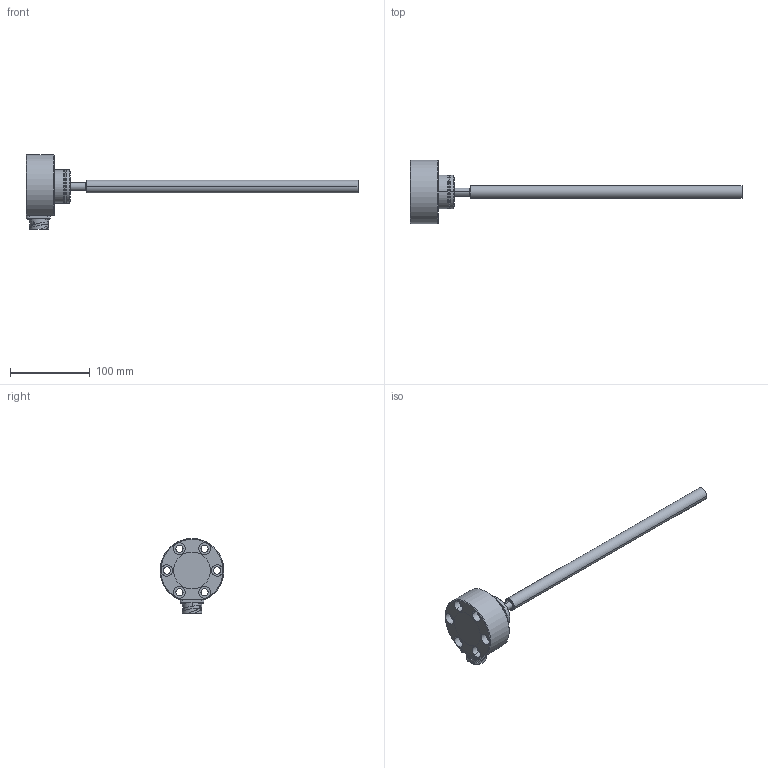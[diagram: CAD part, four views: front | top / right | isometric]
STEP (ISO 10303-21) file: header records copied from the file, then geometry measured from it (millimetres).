
FILE_DESCRIPTION((''),'2;1');
FILE_NAME('0000240800_PRT','2019-08-29T14:01:27',('pdmservice'),(''),'CREO PARAMETRIC BY PTC INC, 2018420','CREO PARAMETRIC BY PTC INC, 2018420','');
FILE_SCHEMA(('AUTOMOTIVE_DESIGN { 1 0 10303 214 1 1 1 1 }'));
Length unit declared in the file: millimetre
Products named in the file (1): 0000240800_PRT
Bounding box: 415 x 79.87 x 93.7 mm (x, y, z)
Volume: 23758.9 mm3; surface area: 73277.5 mm2
Topology: 6 solids, 7 shells, 270 faces, 691 edges, 467 vertices
Faces by surface type: cylinder 113, plane 88, cone 39, bspline 16, torus 12, sphere 2
Entity records: 15043 total; most frequent: CARTESIAN_POINT 5393, DIRECTION 1363, ORIENTED_EDGE 1351, PRESENTATION_STYLE_ASSIGNMENT 717, STYLED_ITEM 696, CURVE_STYLE 689, EDGE_CURVE 689, AXIS2_PLACEMENT_3D 576
